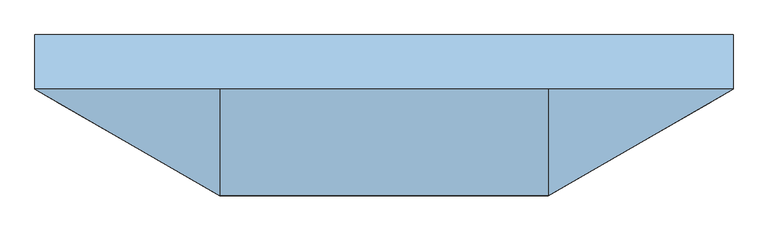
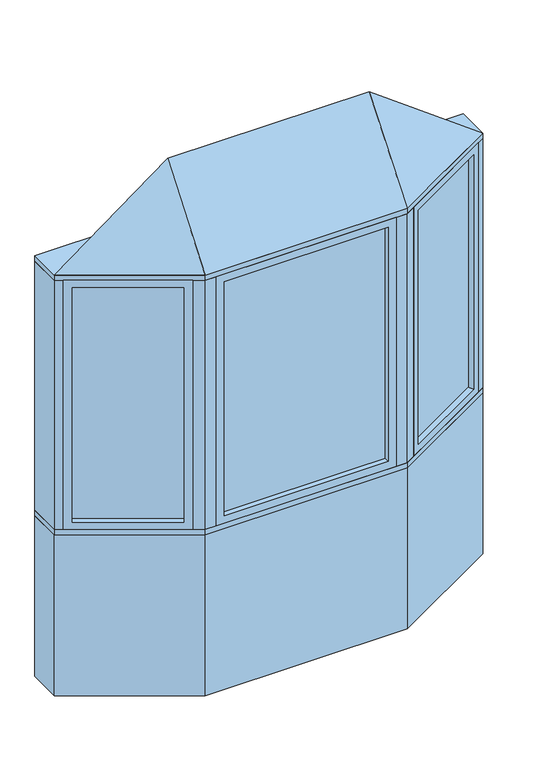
"""IFC4 building model written with IfcOpenShell, lengths in millimetres: window geometry, Pollard_Windows_Tudor Casement Bows and Bays : AML-BAY 30 AFR0612-08-500."""

from ifc_helpers import new_model, si_unit, frame, origin, origin_with_axes, place, context, project, spatial, polyline, outline, extrude, faceted_brep, source, transform, mapped, element, save


def window_85cca415(model_context):
    return source(origin(), model_context, "Body", "SolidModel", [
        extrude(outline(polyline([(913.112102, -82.0482469), (510.2320119, -314.6511754), (507.6920119, -310.2517664), (910.572102, -77.6488379), (913.112102, -82.0482469)])), frame((0.0, 0.0, 823.1628), z_axis=(0.0, 0.0, 1.0), x_axis=(1.0, 0.0, 0.0)), (0.0, 0.0, 1.0), 1153.6704),
        faceted_brep([(902.1135794, -88.3982469, 835.8628), (914.8135794, -110.3952922, 835.8628), (914.8135794, -110.3952922, 1964.1332), (902.1135794, -88.3982469, 1964.1332), (910.572102, -77.6488379, 823.1628), (913.112102, -82.0482469, 823.1628), (913.112102, -82.0482469, 1976.8332), (910.572102, -77.6488379, 1976.8332), (886.8735794, -62.0017926, 835.8628), (899.5735794, -83.9988379, 835.8628), (899.5735794, -83.9988379, 1964.1332), (886.8735794, -62.0017926, 1964.1332), (945.8734073, -92.4628922, 799.998), (917.9334073, -44.0693926, 799.998), (917.9334073, -44.0693926, 1999.998), (945.8734073, -92.4628922, 1999.998), (533.9305346, -330.2982207, 1964.1332), (521.2305346, -308.3011754, 1964.1332), (510.2320119, -314.6511754, 1976.8332), (507.6920119, -310.2517664, 1976.8332), (518.6905346, -303.9017664, 1964.1332), (505.9905346, -281.9047211, 1964.1332), (474.9307067, -299.8371211, 1999.998), (502.8707067, -348.2306207, 1999.998), (533.9305346, -330.2982207, 835.8628), (521.2305346, -308.3011754, 835.8628), (510.2320119, -314.6511754, 823.1628), (507.6920119, -310.2517664, 823.1628), (518.6905346, -303.9017664, 835.8628), (505.9905346, -281.9047211, 835.8628), (474.9307067, -299.8371211, 799.998), (502.8707067, -348.2306207, 799.998)], [[[0, 1, 2, 3]], [[4, 5, 6, 7]], [[8, 9, 10, 11]], [[12, 13, 14, 15]], [[3, 2, 16, 17]], [[7, 6, 18, 19]], [[11, 10, 20, 21]], [[15, 14, 22, 23]], [[17, 16, 24, 25]], [[19, 18, 26, 27]], [[21, 20, 28, 29]], [[23, 22, 30, 31]], [[25, 24, 1, 0]], [[5, 26, 18, 6], [3, 17, 25, 0]], [[27, 26, 5, 4]], [[7, 19, 27, 4], [9, 28, 20, 10]], [[29, 28, 9, 8]], [[13, 30, 22, 14], [11, 21, 29, 8]], [[31, 30, 13, 12]], [[15, 23, 31, 12], [1, 24, 16, 2]]]),
        extrude(outline(polyline([(-510.2320119, -314.6511754), (-913.112102, -82.0482469), (-910.572102, -77.6488379), (-507.6920119, -310.2517664), (-510.2320119, -314.6511754)])), frame((0.0, 0.0, 823.1628), z_axis=(0.0, 0.0, 1.0), x_axis=(1.0, 0.0, 0.0)), (0.0, 0.0, 1.0), 1153.6704),
        faceted_brep([(-518.6905346, -303.9017664, 1964.1332), (-505.9905346, -281.9047211, 1964.1332), (-505.9905346, -281.9047211, 835.8628), (-518.6905346, -303.9017664, 835.8628), (-510.2320119, -314.6511754, 1976.8332), (-507.6920119, -310.2517664, 1976.8332), (-507.6920119, -310.2517664, 823.1628), (-510.2320119, -314.6511754, 823.1628), (-533.9305346, -330.2982207, 1964.1332), (-521.2305346, -308.3011754, 1964.1332), (-521.2305346, -308.3011754, 835.8628), (-533.9305346, -330.2982207, 835.8628), (-474.9307067, -299.8371211, 1999.998), (-502.8707067, -348.2306207, 1999.998), (-502.8707067, -348.2306207, 799.998), (-474.9307067, -299.8371211, 799.998), (-886.8735794, -62.0017926, 835.8628), (-899.5735794, -83.9988379, 835.8628), (-910.572102, -77.6488379, 823.1628), (-913.112102, -82.0482469, 823.1628), (-902.1135794, -88.3982469, 835.8628), (-914.8135794, -110.3952922, 835.8628), (-945.8734073, -92.4628922, 799.998), (-917.9334073, -44.0693926, 799.998), (-886.8735794, -62.0017926, 1964.1332), (-899.5735794, -83.9988379, 1964.1332), (-910.572102, -77.6488379, 1976.8332), (-913.112102, -82.0482469, 1976.8332), (-902.1135794, -88.3982469, 1964.1332), (-914.8135794, -110.3952922, 1964.1332), (-945.8734073, -92.4628922, 1999.998), (-917.9334073, -44.0693926, 1999.998)], [[[0, 1, 2, 3]], [[4, 5, 6, 7]], [[8, 9, 10, 11]], [[12, 13, 14, 15]], [[3, 2, 16, 17]], [[7, 6, 18, 19]], [[11, 10, 20, 21]], [[15, 14, 22, 23]], [[17, 16, 24, 25]], [[19, 18, 26, 27]], [[21, 20, 28, 29]], [[23, 22, 30, 31]], [[15, 23, 31, 12], [1, 24, 16, 2]], [[25, 24, 1, 0]], [[5, 26, 18, 6], [3, 17, 25, 0]], [[27, 26, 5, 4]], [[7, 19, 27, 4], [9, 28, 20, 10]], [[29, 28, 9, 8]], [[13, 30, 22, 14], [11, 21, 29, 8]], [[31, 30, 13, 12]]]),
        extrude(outline(polyline([(386.4046365, -347.8306207), (-386.4046365, -347.8306207), (-386.4046365, -342.7506207), (386.4046365, -342.7506207), (386.4046365, -347.8306207)])), frame((0.0, 0.0, 823.1628), z_axis=(0.0, 0.0, 1.0), x_axis=(1.0, 0.0, 0.0)), (0.0, 0.0, 1.0), 1153.6704),
        faceted_brep([(373.7046365, -347.8306207, 835.8628), (373.7046365, -373.2306207, 835.8628), (373.7046365, -373.2306207, 1964.1332), (373.7046365, -347.8306207, 1964.1332), (386.4046365, -342.7506207, 823.1628), (386.4046365, -347.8306207, 823.1628), (386.4046365, -347.8306207, 1976.8332), (386.4046365, -342.7506207, 1976.8332), (373.7046365, -317.3506207, 835.8628), (373.7046365, -342.7506207, 835.8628), (373.7046365, -342.7506207, 1964.1332), (373.7046365, -317.3506207, 1964.1332), (409.5694365, -373.2306207, 799.998), (409.5694365, -317.3506207, 799.998), (409.5694365, -317.3506207, 1999.998), (409.5694365, -373.2306207, 1999.998), (-373.7046365, -373.2306207, 1964.1332), (-373.7046365, -347.8306207, 1964.1332), (-386.4046365, -347.8306207, 1976.8332), (-386.4046365, -342.7506207, 1976.8332), (-373.7046365, -342.7506207, 1964.1332), (-373.7046365, -317.3506207, 1964.1332), (-409.5694365, -317.3506207, 1999.998), (-409.5694365, -373.2306207, 1999.998), (-373.7046365, -373.2306207, 835.8628), (-373.7046365, -347.8306207, 835.8628), (-386.4046365, -347.8306207, 823.1628), (-386.4046365, -342.7506207, 823.1628), (-373.7046365, -342.7506207, 835.8628), (-373.7046365, -317.3506207, 835.8628), (-409.5694365, -317.3506207, 799.998), (-409.5694365, -373.2306207, 799.998)], [[[0, 1, 2, 3]], [[4, 5, 6, 7]], [[8, 9, 10, 11]], [[12, 13, 14, 15]], [[3, 2, 16, 17]], [[7, 6, 18, 19]], [[11, 10, 20, 21]], [[15, 14, 22, 23]], [[17, 16, 24, 25]], [[19, 18, 26, 27]], [[21, 20, 28, 29]], [[23, 22, 30, 31]], [[15, 23, 31, 12], [1, 24, 16, 2]], [[25, 24, 1, 0]], [[5, 26, 18, 6], [3, 17, 25, 0]], [[27, 26, 5, 4]], [[7, 19, 27, 4], [9, 28, 20, 10]], [[29, 28, 9, 8]], [[13, 30, 22, 14], [11, 21, 29, 8]], [[31, 30, 13, 12]]]),
        faceted_brep([(976.5, -74.7806207, 2025.398), (459.5694365, -373.2306207, 2025.398), (-459.5694365, -373.2306207, 2025.398), (-976.5, -74.7806207, 2025.398), (-459.5694365, -74.7806207, 2406.398), (459.5694365, -74.7806207, 2406.398)], [[[0, 1, 2, 3]], [[3, 2, 4]], [[2, 1, 5, 4]], [[1, 0, 5]], [[0, 3, 4, 5]]]),
        extrude(outline(polyline([(-976.5, 77.6193793), (976.5, 77.6193793), (976.5, -74.7806207), (459.5694365, -373.2306207), (-459.5694365, -373.2306207), (-976.5, -74.7806207), (-976.5, 77.6193793)])), frame((0.0, 0.0, 1999.998), z_axis=(0.0, 0.0, 1.0), x_axis=(1.0, 0.0, 0.0)), (0.0, 0.0, 1.0), 25.4),
        extrude(outline(polyline([(-976.5, -74.7806207), (-976.5, 77.6193793), (-935.6645431, 77.6193793), (-935.6645431, -74.7806207), (-945.8734073, -92.4628922), (-976.5, -74.7806207)])), frame((0.0, 0.0, 799.998), z_axis=(0.0, 0.0, 1.0), x_axis=(1.0, 0.0, 0.0)), (0.0, 0.0, 1.0), 1200.0),
        extrude(outline(polyline([(976.5, 77.6193793), (976.5, -74.7806207), (945.8734073, -92.4628922), (935.6645431, -74.7806207), (935.6645431, 77.6193793), (976.5, 77.6193793)])), frame((0.0, 0.0, 799.998), z_axis=(0.0, 0.0, 1.0), x_axis=(1.0, 0.0, 0.0)), (0.0, 0.0, 1.0), 1200.0),
        extrude(outline(polyline([(459.5694365, -373.2306207), (409.5694365, -373.2306207), (409.5694365, -323.2306207), (446.1719769, -323.2306207), (477.8707067, -304.9293505), (502.8707067, -348.2306207), (459.5694365, -373.2306207)])), frame((0.0, 0.0, 799.998), z_axis=(0.0, 0.0, 1.0), x_axis=(1.0, 0.0, 0.0)), (0.0, 0.0, 1.0), 1200.0),
        extrude(outline(polyline([(-459.5694365, -373.2306207), (-502.8707067, -348.2306207), (-477.8707067, -304.9293505), (-446.1719769, -323.2306207), (-409.5694365, -323.2306207), (-409.5694365, -373.2306207), (-459.5694365, -373.2306207)])), frame((0.0, 0.0, 799.998), z_axis=(0.0, 0.0, 1.0), x_axis=(1.0, 0.0, 0.0)), (0.0, 0.0, 1.0), 1200.0),
        extrude(outline(polyline([(-459.5694365, -373.2306207), (-976.5, -74.7806207), (-976.5, 77.6193793), (-935.6645431, 77.6193793), (-418.7339796, -220.8306207), (418.7339796, -220.8306207), (935.6645431, 77.6193793), (976.5, 77.6193793), (976.5, -74.7806207), (459.5694365, -373.2306207), (-459.5694365, -373.2306207)])), frame((0.0, 0.0, 774.598), z_axis=(0.0, 0.0, 1.0), x_axis=(1.0, 0.0, 0.0)), (0.0, 0.0, 1.0), 25.4),
        extrude(outline(polyline([(-976.5, -74.7806207), (-976.5, 77.6193793), (-935.6645431, 77.6193793), (-418.7339796, -220.8306207), (418.7339796, -220.8306207), (935.6645431, 77.6193793), (976.5, 77.6193793), (976.5, -74.7806207), (459.5694365, -373.2306207), (-459.5694365, -373.2306207), (-976.5, -74.7806207)])), origin_with_axes(), (0.0, 0.0, 1.0), 774.598),
    ])


if __name__ == "__main__":
    model = new_model("IFC4")
    model_context = context("Model", 3, world=origin())
    ifc_project = project(units=[si_unit("LENGTHUNIT", "METRE", prefix="MILLI")], contexts=[model_context])
    site = spatial("IfcSite", under=ifc_project)
    building = spatial("IfcBuilding", under=site)
    placement = place(None, origin())
    window_shape = window_85cca415(model_context)
    element("IfcWindow", 1, ObjectType="Pollard_Windows_Tudor Casement Bows and Bays : AML-BAY 30 AFR0612-08-500", at=placement, inside=building, context=model_context, shape_type="MappedRepresentation", body=[
        mapped(window_shape, transform((0.0, 0.0, 0.0), x_axis=(1.0, 0.0, 0.0), y_axis=(0.0, 1.0, 0.0), z_axis=(0.0, 0.0, 1.0))),
    ])
    save(model, "model.ifc")
